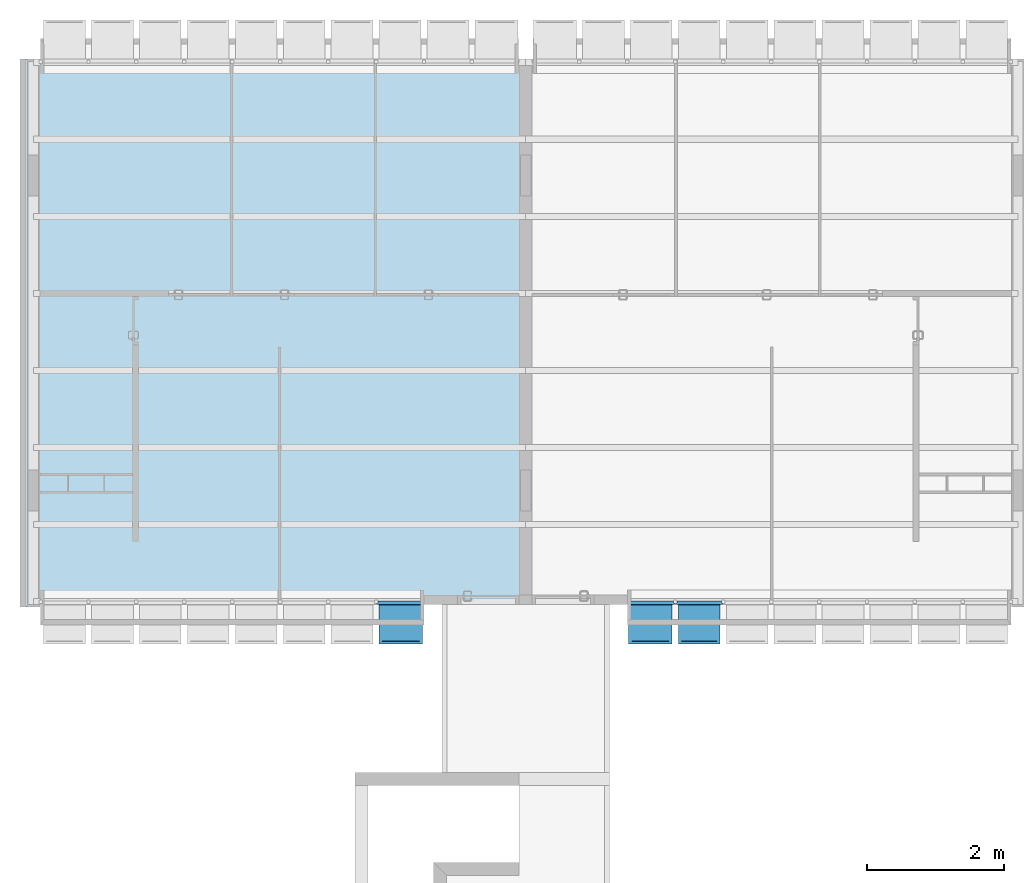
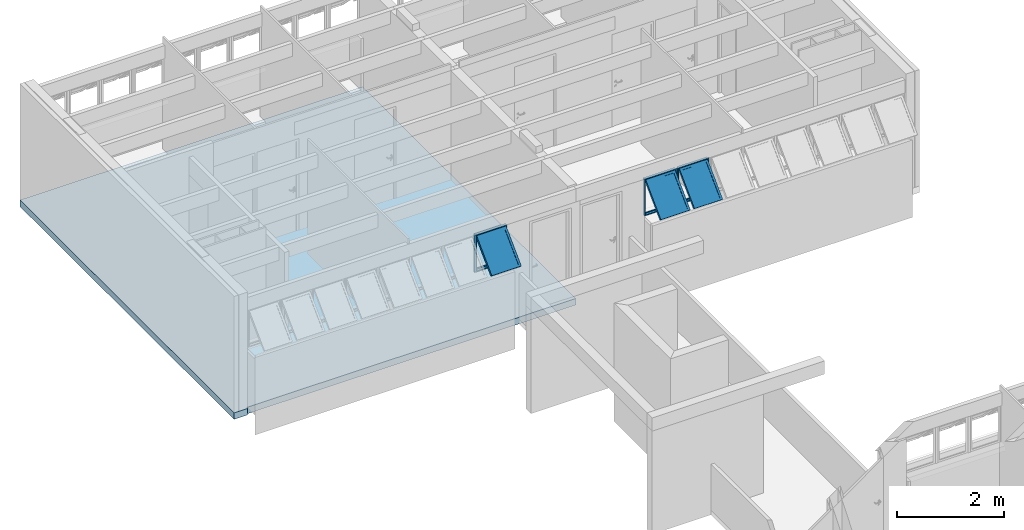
# One storey, part 12 of 40: 3 plates, 1 slab, 2 elements without a shape of their own.
"""IFC4 building model written with IfcOpenShell, lengths in millimetres."""

from ifc_helpers import new_model, entity, si_unit, converted_unit, derived_unit, direction, frame, origin_with_axes, place, context, subcontext, project, spatial, line, indexed_curve, outline, extrude, polygons, source, transform, mapped, material, layer, layer_set, layer_usage, constituent, constituent_set, type_object, element, aggregate, save


model = new_model("IFC4")

# Units and contexts
model_context = context("Model", 3, precision=0.01, world=origin_with_axes(), true_north=direction((0.0, 1.0)))
body_context = subcontext(model_context, "Body", "Model", "MODEL_VIEW")
ifc_project = project(units=[si_unit("LENGTHUNIT", "METRE", prefix="MILLI"), si_unit("AREAUNIT", "SQUARE_METRE"), si_unit("VOLUMEUNIT", "CUBIC_METRE"), converted_unit("PLANEANGLEUNIT", "DEGREE", entity("IfcPlaneAngleMeasure", 0.0174532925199), si_unit("PLANEANGLEUNIT", "RADIAN"), dimensions=[0, 0, 0, 0, 0, 0, 0]), converted_unit("TIMEUNIT", "Year", entity("IfcTimeMeasure", 31556926.0), si_unit("TIMEUNIT", "SECOND"), dimensions=[0, 0, 1, 0, 0, 0, 0]), si_unit("MASSUNIT", "GRAM", prefix="KILO"), si_unit("THERMODYNAMICTEMPERATUREUNIT", "DEGREE_CELSIUS"), si_unit("LUMINOUSINTENSITYUNIT", "LUMEN"), si_unit("ENERGYUNIT", "JOULE", prefix="MEGA"), derived_unit("THERMALCONDUCTANCEUNIT", [(si_unit("POWERUNIT", "WATT"), 1), (si_unit("LENGTHUNIT", "METRE"), -1), (si_unit("THERMODYNAMICTEMPERATUREUNIT", "KELVIN"), -1)]), derived_unit("SPECIFICHEATCAPACITYUNIT", [(si_unit("ENERGYUNIT", "JOULE"), 1), (si_unit("MASSUNIT", "GRAM", prefix="KILO"), -1), (si_unit("THERMODYNAMICTEMPERATUREUNIT", "KELVIN"), -1)]), derived_unit("MASSDENSITYUNIT", [(si_unit("MASSUNIT", "GRAM", prefix="KILO"), 1), (si_unit("VOLUMEUNIT", "CUBIC_METRE"), -1)])], contexts=[model_context])

# Site, building, storey
site_placement = place(None, origin_with_axes())
site = spatial("IfcSite", under=ifc_project, at=site_placement, Name="Local", CompositionType="ELEMENT")
building_placement = place(site_placement, origin_with_axes())
building = spatial("IfcBuilding", under=site, at=building_placement, Name="Construção", CompositionType="ELEMENT")
storey_placement = place(building_placement, frame((0.0, 0.0, 5300.0), z_axis=(0.0, 0.0, 1.0), x_axis=(1.0, 0.0, 0.0)))
storey = spatial("IfcBuildingStorey", under=building, at=storey_placement, Name="Terceiro Pavimento", CompositionType="ELEMENT", Elevation=5300.0)

# Slab
ifc_material_1 = material(Name="Concreto Armado Moldado in Loco - Estrutural")
ifc_layer = layer(ifc_material_1, 150.0, ventilated="UNKNOWN", Name="Concreto Armado Moldado in Loco - Estrutural")
ifc_layer_set = layer_set([ifc_layer], Name="Concreto Armado Moldado in Loco - Estrutural 150")
ifc_layer_usage = layer_usage(ifc_layer_set, "AXIS3", "NEGATIVE", 150.0)
slab_type = type_object("IfcSlabType", Name="Concreto Armado Moldado in Loco - Estrutural 150", PredefinedType="FLOOR")
slab_placement = place(storey_placement, frame((0.0, 25860.0, 0.0), z_axis=(0.0, 0.0, 1.0), x_axis=(1.0, 0.0, 0.0)))
element("IfcSlab", 1, at=slab_placement, inside=storey, type_object=slab_type, material=ifc_layer_usage, Name="APTO11-LAJE-000", PredefinedType="FLOOR", context=body_context, shape_type="SweptSolid", body=[
    extrude(outline(indexed_curve([(0.0, 0.0), (0.0, -7999.99999872), (289.999999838, -8000.00000006), (290.0, -7965.0), (5900.0, -7965.0), (6160.00008404, -7964.99999866), (7385.0, -7964.99999866), (7385.0, 0.0), (299.999978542, 0.0)], segments=[line(1, 2, 3, 4, 5, 6, 7, 8, 9, 1)])), frame((0.0, 0.0, -150.0), z_axis=(0.0, 0.0, 1.0), x_axis=(1.0, 0.0, 0.0)), (0.0, 0.0, 1.0), 150.0),
])

# Window, plates
window_type = type_object("IfcWindowType", Name="Tipo de Parede Cortina", PartitioningType="NOTDEFINED", PredefinedType="NOTDEFINED")
window_1_placement = place(storey_placement, frame((12020.0, 17910.0, 1355.00007107), z_axis=(0.0, 0.0, 1.0), x_axis=(1.0, 0.0, 0.0)))
window_1 = element("IfcWindow", 2, at=window_1_placement, inside=storey, type_object=window_type, Name="APTO12-JANELA-000", PredefinedType="NOTDEFINED")
ifc_material_2 = material(Name="Alumínio")
ifc_constituent_1 = constituent(ifc_material_2, Name="Alumínio")
ifc_material_3 = material(Name="Vidro")
ifc_constituent_2 = constituent(ifc_material_3, Name="Vidro")
ifc_constituent_set_1 = constituent_set(constituents=[ifc_constituent_1, ifc_constituent_2])
plate_type_1 = type_object("IfcPlateType", Name="Painel Principal 690 x 845 x 20", PredefinedType="CURTAIN_PANEL")
shared_shape_1 = source(origin_with_axes(), body_context, "Body", "Tessellation", [
    polygons([(-25.0000036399, 0.0, -40.0), (-25.0000036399, 0.0, -35.0), (-674.999997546, 0.0, -35.0), (-674.999997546, 0.0, -40.0), (-70.0000036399, 45.0, -40.0), (-70.0000036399, 45.0, -35.0), (-629.999997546, 45.0, -35.0), (-629.999997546, 45.0, -40.0)], [[[1, 2, 3, 4]], [[5, 6, 2, 1]], [[2, 6, 7, 3]], [[4, 3, 7, 8]], [[1, 4, 8, 5]], [[8, 7, 6, 5]]], closed=True),
    polygons([(-674.999997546, 0.0, -40.0), (-674.999997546, 0.0, -35.0), (-674.999997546, 844.999891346, -35.0), (-674.999997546, 844.999891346, -40.0), (-629.999997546, 45.0, -40.0), (-629.999997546, 45.0, -35.0), (-629.999997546, 799.999891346, -35.0), (-629.999997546, 799.999891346, -40.0)], [[[1, 2, 3, 4]], [[5, 6, 2, 1]], [[2, 6, 7, 3]], [[4, 3, 7, 8]], [[1, 4, 8, 5]], [[8, 7, 6, 5]]], closed=True),
    polygons([(-25.0000036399, 844.999891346, -40.0), (-25.0000036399, 844.999891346, -35.0), (-70.0000036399, 799.999891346, -35.0), (-70.0000036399, 799.999891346, -40.0), (-674.999997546, 844.999891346, -40.0), (-674.999997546, 844.999891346, -35.0), (-629.999997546, 799.999891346, -35.0), (-629.999997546, 799.999891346, -40.0)], [[[1, 2, 3, 4]], [[5, 6, 2, 1]], [[2, 6, 7, 3]], [[4, 3, 7, 8]], [[1, 4, 8, 5]], [[8, 7, 6, 5]]], closed=True),
    polygons([(-25.0000036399, 0.0, -40.0), (-25.0000036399, 0.0, -35.0), (-70.0000036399, 45.0, -35.0), (-70.0000036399, 45.0, -40.0), (-25.0000036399, 844.999891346, -40.0), (-25.0000036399, 844.999891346, -35.0), (-70.0000036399, 799.999891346, -35.0), (-70.0000036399, 799.999891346, -40.0)], [[[1, 2, 3, 4]], [[5, 6, 2, 1]], [[2, 6, 7, 3]], [[4, 3, 7, 8]], [[1, 4, 8, 5]], [[8, 7, 6, 5]]], closed=True),
    polygons([(-25.0000036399, 0.0, -35.0), (-25.0000036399, 0.0, 15.0), (-674.999997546, 0.0, 15.0), (-674.999997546, 0.0, -35.0), (-45.0000036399, 20.0, -35.0), (-45.0000036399, 20.0, 15.0), (-654.999997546, 20.0, 15.0), (-654.999997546, 20.0, -35.0)], [[[1, 2, 3, 4]], [[5, 6, 2, 1]], [[2, 6, 7, 3]], [[4, 3, 7, 8]], [[1, 4, 8, 5]], [[8, 7, 6, 5]]], closed=True),
    polygons([(-674.999997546, 0.0, -35.0), (-674.999997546, 0.0, 15.0), (-674.999997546, 844.999891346, 15.0), (-674.999997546, 844.999891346, -35.0), (-654.999997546, 20.0, -35.0), (-654.999997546, 20.0, 15.0), (-654.999997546, 824.999891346, 15.0), (-654.999997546, 824.999891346, -35.0)], [[[1, 2, 3, 4]], [[5, 6, 2, 1]], [[2, 6, 7, 3]], [[4, 3, 7, 8]], [[1, 4, 8, 5]], [[8, 7, 6, 5]]], closed=True),
    polygons([(-25.0000036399, 844.999891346, -35.0), (-25.0000036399, 844.999891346, 15.0), (-45.0000036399, 824.999891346, 15.0), (-45.0000036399, 824.999891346, -35.0), (-674.999997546, 844.999891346, -35.0), (-674.999997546, 844.999891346, 15.0), (-654.999997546, 824.999891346, 15.0), (-654.999997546, 824.999891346, -35.0)], [[[1, 2, 3, 4]], [[5, 6, 2, 1]], [[2, 6, 7, 3]], [[4, 3, 7, 8]], [[1, 4, 8, 5]], [[8, 7, 6, 5]]], closed=True),
    polygons([(-25.0000036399, 0.0, -35.0), (-25.0000036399, 0.0, 15.0), (-45.0000036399, 20.0, 15.0), (-45.0000036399, 20.0, -35.0), (-25.0000036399, 844.999891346, -35.0), (-25.0000036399, 844.999891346, 15.0), (-45.0000036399, 824.999891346, 15.0), (-45.0000036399, 824.999891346, -35.0)], [[[1, 2, 3, 4]], [[5, 6, 2, 1]], [[2, 6, 7, 3]], [[4, 3, 7, 8]], [[1, 4, 8, 5]], [[8, 7, 6, 5]]], closed=True),
    polygons([(-694.999995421, 0.0, -10.0), (-694.999995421, 0.0, 10.0), (-694.999995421, 844.999891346, 10.0), (-694.999995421, 844.999891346, -10.0), (-674.999997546, 0.0, -10.0), (-674.999997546, 0.0, 10.0), (-674.999997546, 844.999891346, 10.0), (-674.999997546, 844.999891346, -10.0)], [[[1, 2, 3, 4]], [[5, 6, 2, 1]], [[2, 6, 7, 3]], [[4, 3, 7, 8]], [[1, 4, 8, 5]], [[8, 7, 6, 5]]], closed=True),
    polygons([(-5.00000576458, 844.999891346, -10.0), (-5.00000576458, 844.999891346, 10.0), (-5.00000576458, 0.0, 10.0), (-5.00000576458, 0.0, -10.0), (-25.0000036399, 844.999891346, -10.0), (-25.0000036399, 844.999891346, 10.0), (-25.0000036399, 0.0, 10.0), (-25.0000036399, 0.0, -10.0)], [[[1, 2, 3, 4]], [[5, 6, 2, 1]], [[2, 6, 7, 3]], [[4, 3, 7, 8]], [[1, 4, 8, 5]], [[8, 7, 6, 5]]], closed=True),
    polygons([(-90.0000036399, 252.243475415, 517.045737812), (-90.0000036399, 291.13434838, 555.936610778), (-90.0000036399, 796.715620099, 50.3553390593), (-90.0000036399, 757.824747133, 11.4644660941), (-45.0000036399, 220.423670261, 548.865542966), (-45.0000036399, 259.314543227, 587.756415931), (-45.0000036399, 828.535425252, 18.5355339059), (-45.0000036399, 789.644552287, -20.3553390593)], [[[1, 2, 3, 4]], [[5, 6, 2, 1]], [[2, 6, 7, 3]], [[4, 3, 7, 8]], [[1, 4, 8, 5]], [[8, 7, 6, 5]]], closed=True),
    polygons([(-654.999997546, 220.423670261, 548.865542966), (-654.999997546, 259.314543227, 587.756415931), (-654.999997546, 828.535425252, 18.5355339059), (-654.999997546, 789.644552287, -20.3553390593), (-609.999997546, 252.243475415, 517.045737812), (-609.999997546, 291.13434838, 555.936610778), (-609.999997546, 796.715620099, 50.3553390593), (-609.999997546, 757.824747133, 11.4644660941)], [[[1, 2, 3, 4]], [[5, 6, 2, 1]], [[2, 6, 7, 3]], [[4, 3, 7, 8]], [[1, 4, 8, 5]], [[8, 7, 6, 5]]], closed=True),
    polygons([(-654.999997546, 220.423670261, 548.865542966), (-654.999997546, 259.314543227, 587.756415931), (-609.999997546, 291.13434838, 555.936610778), (-609.999997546, 252.243475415, 517.045737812), (-45.0000036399, 220.423670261, 548.865542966), (-45.0000036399, 259.314543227, 587.756415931), (-90.0000036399, 291.13434838, 555.936610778), (-90.0000036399, 252.243475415, 517.045737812)], [[[1, 2, 3, 4]], [[5, 6, 2, 1]], [[2, 6, 7, 3]], [[4, 3, 7, 8]], [[1, 4, 8, 5]], [[8, 7, 6, 5]]], closed=True),
    polygons([(-45.0000036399, 789.644552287, -20.3553390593), (-45.0000036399, 828.535425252, 18.5355339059), (-90.0000036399, 796.715620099, 50.3553390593), (-90.0000036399, 757.824747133, 11.4644660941), (-654.999997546, 789.644552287, -20.3553390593), (-654.999997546, 828.535425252, 18.5355339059), (-609.999997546, 796.715620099, 50.3553390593), (-609.999997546, 757.824747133, 11.4644660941)], [[[1, 2, 3, 4]], [[5, 6, 2, 1]], [[2, 6, 7, 3]], [[4, 3, 7, 8]], [[1, 4, 8, 5]], [[8, 7, 6, 5]]], closed=True),
    polygons([(-90.0000036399, 272.749572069, 537.551834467), (-90.0000036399, 284.063280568, 548.865542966), (-609.999997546, 284.063280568, 548.865542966), (-609.999997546, 272.749572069, 537.551834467), (-90.0000036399, 778.330843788, 31.9705627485), (-90.0000036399, 789.644552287, 43.2842712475), (-609.999997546, 789.644552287, 43.2842712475), (-609.999997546, 778.330843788, 31.9705627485)], [[[1, 2, 3, 4]], [[5, 6, 2, 1]], [[2, 6, 7, 3]], [[4, 3, 7, 8]], [[1, 4, 8, 5]], [[8, 7, 6, 5]]], closed=True),
])
plate_1_placement = place(window_1_placement, frame((-2100.0, 0.0, 422.499964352), z_axis=(0.0, 0.0, 1.0), x_axis=(1.0, 0.0, 0.0)))
plate_1 = element("IfcPlate", 3, at=plate_1_placement, type_object=plate_type_1, material=ifc_constituent_set_1, Name="APTO12-Painel-Prin-029", PredefinedType="CURTAIN_PANEL", context=body_context, shape_type="MappedRepresentation", body=[
    mapped(shared_shape_1, transform((350.0, 0.0, -422.499964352), x_axis=(1.0, 0.0, 0.0), y_axis=(0.0, 0.0, 1.0), z_axis=(0.0, -1.0, 0.0))),
])
ifc_constituent_3 = constituent(ifc_material_2, Name="Alumínio")
ifc_constituent_4 = constituent(ifc_material_3, Name="Vidro")
ifc_constituent_set_2 = constituent_set(constituents=[ifc_constituent_3, ifc_constituent_4])
plate_type_2 = type_object("IfcPlateType", Name="Painel Principal 695 x 845 x 20", PredefinedType="CURTAIN_PANEL")
shared_shape_2 = source(origin_with_axes(), body_context, "Body", "Tessellation", [
    polygons([(-25.0000062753, 0.0, -40.0), (-25.0000062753, 0.0, -35.0), (-699.999999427, 0.0, -35.0), (-699.999999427, 0.0, -40.0), (-70.0000062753, 45.0, -40.0), (-70.0000062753, 45.0, -35.0), (-654.999999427, 45.0, -35.0), (-654.999999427, 45.0, -40.0)], [[[1, 2, 3, 4]], [[5, 6, 2, 1]], [[2, 6, 7, 3]], [[4, 3, 7, 8]], [[1, 4, 8, 5]], [[8, 7, 6, 5]]], closed=True),
    polygons([(-699.999999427, 0.0, -40.0), (-699.999999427, 0.0, -35.0), (-699.999999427, 844.999980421, -35.0), (-699.999999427, 844.999980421, -40.0), (-654.999999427, 45.0, -40.0), (-654.999999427, 45.0, -35.0), (-654.999999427, 799.999980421, -35.0), (-654.999999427, 799.999980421, -40.0)], [[[1, 2, 3, 4]], [[5, 6, 2, 1]], [[2, 6, 7, 3]], [[4, 3, 7, 8]], [[1, 4, 8, 5]], [[8, 7, 6, 5]]], closed=True),
    polygons([(-25.0000062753, 844.999980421, -40.0), (-25.0000062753, 844.999980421, -35.0), (-70.0000062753, 799.999980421, -35.0), (-70.0000062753, 799.999980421, -40.0), (-699.999999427, 844.999980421, -40.0), (-699.999999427, 844.999980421, -35.0), (-654.999999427, 799.999980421, -35.0), (-654.999999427, 799.999980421, -40.0)], [[[1, 2, 3, 4]], [[5, 6, 2, 1]], [[2, 6, 7, 3]], [[4, 3, 7, 8]], [[1, 4, 8, 5]], [[8, 7, 6, 5]]], closed=True),
    polygons([(-25.0000062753, 0.0, -40.0), (-25.0000062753, 0.0, -35.0), (-70.0000062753, 45.0, -35.0), (-70.0000062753, 45.0, -40.0), (-25.0000062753, 844.999980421, -40.0), (-25.0000062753, 844.999980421, -35.0), (-70.0000062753, 799.999980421, -35.0), (-70.0000062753, 799.999980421, -40.0)], [[[1, 2, 3, 4]], [[5, 6, 2, 1]], [[2, 6, 7, 3]], [[4, 3, 7, 8]], [[1, 4, 8, 5]], [[8, 7, 6, 5]]], closed=True),
    polygons([(-25.0000062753, 0.0, -35.0), (-25.0000062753, 0.0, 15.0), (-699.999999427, 0.0, 15.0), (-699.999999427, 0.0, -35.0), (-45.0000062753, 20.0, -35.0), (-45.0000062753, 20.0, 15.0), (-679.999999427, 20.0, 15.0), (-679.999999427, 20.0, -35.0)], [[[1, 2, 3, 4]], [[5, 6, 2, 1]], [[2, 6, 7, 3]], [[4, 3, 7, 8]], [[1, 4, 8, 5]], [[8, 7, 6, 5]]], closed=True),
    polygons([(-699.999999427, 0.0, -35.0), (-699.999999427, 0.0, 15.0), (-699.999999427, 844.999980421, 15.0), (-699.999999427, 844.999980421, -35.0), (-679.999999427, 20.0, -35.0), (-679.999999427, 20.0, 15.0), (-679.999999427, 824.999980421, 15.0), (-679.999999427, 824.999980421, -35.0)], [[[1, 2, 3, 4]], [[5, 6, 2, 1]], [[2, 6, 7, 3]], [[4, 3, 7, 8]], [[1, 4, 8, 5]], [[8, 7, 6, 5]]], closed=True),
    polygons([(-25.0000062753, 844.999980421, -35.0), (-25.0000062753, 844.999980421, 15.0), (-45.0000062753, 824.999980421, 15.0), (-45.0000062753, 824.999980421, -35.0), (-699.999999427, 844.999980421, -35.0), (-699.999999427, 844.999980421, 15.0), (-679.999999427, 824.999980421, 15.0), (-679.999999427, 824.999980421, -35.0)], [[[1, 2, 3, 4]], [[5, 6, 2, 1]], [[2, 6, 7, 3]], [[4, 3, 7, 8]], [[1, 4, 8, 5]], [[8, 7, 6, 5]]], closed=True),
    polygons([(-25.0000062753, 0.0, -35.0), (-25.0000062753, 0.0, 15.0), (-45.0000062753, 20.0, 15.0), (-45.0000062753, 20.0, -35.0), (-25.0000062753, 844.999980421, -35.0), (-25.0000062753, 844.999980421, 15.0), (-45.0000062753, 824.999980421, 15.0), (-45.0000062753, 824.999980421, -35.0)], [[[1, 2, 3, 4]], [[5, 6, 2, 1]], [[2, 6, 7, 3]], [[4, 3, 7, 8]], [[1, 4, 8, 5]], [[8, 7, 6, 5]]], closed=True),
    polygons([(-5.00000629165, 844.999980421, -10.0), (-5.00000629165, 844.999980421, 10.0), (-5.00000629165, 0.0, 10.0), (-5.00000629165, 0.0, -10.0), (-25.0000062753, 844.999980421, -10.0), (-25.0000062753, 844.999980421, 10.0), (-25.0000062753, 0.0, 10.0), (-25.0000062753, 0.0, -10.0)], [[[1, 2, 3, 4]], [[5, 6, 2, 1]], [[2, 6, 7, 3]], [[4, 3, 7, 8]], [[1, 4, 8, 5]], [[8, 7, 6, 5]]], closed=True),
    polygons([(-90.0000062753, 252.243501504, 517.045800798), (-90.0000062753, 291.134374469, 555.936673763), (-90.0000062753, 796.715709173, 50.3553390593), (-90.0000062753, 757.824836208, 11.4644660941), (-45.0000062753, 220.423696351, 548.865605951), (-45.0000062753, 259.314569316, 587.756478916), (-45.0000062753, 828.535514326, 18.5355339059), (-45.0000062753, 789.644641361, -20.3553390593)], [[[1, 2, 3, 4]], [[5, 6, 2, 1]], [[2, 6, 7, 3]], [[4, 3, 7, 8]], [[1, 4, 8, 5]], [[8, 7, 6, 5]]], closed=True),
    polygons([(-679.999999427, 220.423696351, 548.865605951), (-679.999999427, 259.314569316, 587.756478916), (-679.999999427, 828.535514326, 18.5355339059), (-679.999999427, 789.644641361, -20.3553390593), (-634.999999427, 252.243501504, 517.045800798), (-634.999999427, 291.134374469, 555.936673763), (-634.999999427, 796.715709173, 50.3553390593), (-634.999999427, 757.824836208, 11.4644660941)], [[[1, 2, 3, 4]], [[5, 6, 2, 1]], [[2, 6, 7, 3]], [[4, 3, 7, 8]], [[1, 4, 8, 5]], [[8, 7, 6, 5]]], closed=True),
    polygons([(-679.999999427, 220.423696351, 548.865605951), (-679.999999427, 259.314569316, 587.756478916), (-634.999999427, 291.134374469, 555.936673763), (-634.999999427, 252.243501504, 517.045800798), (-45.0000062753, 220.423696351, 548.865605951), (-45.0000062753, 259.314569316, 587.756478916), (-90.0000062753, 291.134374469, 555.936673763), (-90.0000062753, 252.243501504, 517.045800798)], [[[1, 2, 3, 4]], [[5, 6, 2, 1]], [[2, 6, 7, 3]], [[4, 3, 7, 8]], [[1, 4, 8, 5]], [[8, 7, 6, 5]]], closed=True),
    polygons([(-45.0000062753, 789.644641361, -20.3553390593), (-45.0000062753, 828.535514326, 18.5355339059), (-90.0000062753, 796.715709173, 50.3553390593), (-90.0000062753, 757.824836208, 11.4644660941), (-679.999999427, 789.644641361, -20.3553390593), (-679.999999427, 828.535514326, 18.5355339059), (-634.999999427, 796.715709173, 50.3553390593), (-634.999999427, 757.824836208, 11.4644660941)], [[[1, 2, 3, 4]], [[5, 6, 2, 1]], [[2, 6, 7, 3]], [[4, 3, 7, 8]], [[1, 4, 8, 5]], [[8, 7, 6, 5]]], closed=True),
    polygons([(-90.0000062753, 272.749598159, 537.551897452), (-90.0000062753, 284.063306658, 548.865605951), (-634.999999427, 284.063306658, 548.865605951), (-634.999999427, 272.749598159, 537.551897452), (-90.0000062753, 778.330932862, 31.9705627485), (-90.0000062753, 789.644641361, 43.2842712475), (-634.999999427, 789.644641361, 43.2842712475), (-634.999999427, 778.330932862, 31.9705627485)], [[[1, 2, 3, 4]], [[5, 6, 2, 1]], [[2, 6, 7, 3]], [[4, 3, 7, 8]], [[1, 4, 8, 5]], [[8, 7, 6, 5]]], closed=True),
])
plate_2_placement = place(window_1_placement, frame((-2800.0, 0.0, 422.499986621), z_axis=(0.0, 0.0, 1.0), x_axis=(1.0, 0.0, 0.0)))
plate_2 = element("IfcPlate", 4, at=plate_2_placement, type_object=plate_type_2, material=ifc_constituent_set_2, Name="APTO12-Painel-Prin-020", PredefinedType="CURTAIN_PANEL", context=body_context, shape_type="MappedRepresentation", body=[
    mapped(shared_shape_2, transform((350.0, 0.0, -422.499986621), x_axis=(1.0, 0.0, 0.0), y_axis=(0.0, 0.0, 1.0), z_axis=(0.0, -1.0, 0.0))),
])
aggregate(window_1, [plate_1, plate_2])

# Window, plate
window_2_placement = place(storey_placement, frame((2750.0, 17910.0, 1355.00007107), z_axis=(0.0, 0.0, 1.0), x_axis=(1.0, 0.0, 0.0)))
window_2 = element("IfcWindow", 5, at=window_2_placement, inside=storey, type_object=window_type, Name="APTO11-JANELA-000", PredefinedType="NOTDEFINED")
ifc_constituent_5 = constituent(ifc_material_2, Name="Alumínio")
ifc_constituent_6 = constituent(ifc_material_3, Name="Vidro")
ifc_constituent_set_3 = constituent_set(constituents=[ifc_constituent_5, ifc_constituent_6])
shared_shape_3 = source(origin_with_axes(), body_context, "Body", "Tessellation", [
    polygons([(25.0000062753, 0.0, -40.0), (699.999999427, 0.0, -40.0), (699.999999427, 0.0, -35.0), (25.0000062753, 0.0, -35.0), (70.0000062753, 45.0, -40.0), (654.999999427, 45.0, -40.0), (654.999999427, 45.0, -35.0), (70.0000062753, 45.0, -35.0)], [[[1, 2, 3, 4]], [[1, 5, 6, 2]], [[2, 6, 7, 3]], [[4, 3, 7, 8]], [[5, 1, 4, 8]], [[6, 5, 8, 7]]], closed=True),
    polygons([(699.999999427, 0.0, -40.0), (699.999999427, 844.999980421, -40.0), (699.999999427, 844.999980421, -35.0), (699.999999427, 0.0, -35.0), (654.999999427, 45.0, -40.0), (654.999999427, 799.999980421, -40.0), (654.999999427, 799.999980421, -35.0), (654.999999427, 45.0, -35.0)], [[[1, 2, 3, 4]], [[1, 5, 6, 2]], [[2, 6, 7, 3]], [[4, 3, 7, 8]], [[5, 1, 4, 8]], [[6, 5, 8, 7]]], closed=True),
    polygons([(25.0000062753, 844.999980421, -40.0), (70.0000062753, 799.999980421, -40.0), (70.0000062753, 799.999980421, -35.0), (25.0000062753, 844.999980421, -35.0), (699.999999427, 844.999980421, -40.0), (654.999999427, 799.999980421, -40.0), (654.999999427, 799.999980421, -35.0), (699.999999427, 844.999980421, -35.0)], [[[1, 2, 3, 4]], [[1, 5, 6, 2]], [[2, 6, 7, 3]], [[4, 3, 7, 8]], [[5, 1, 4, 8]], [[6, 5, 8, 7]]], closed=True),
    polygons([(25.0000062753, 0.0, -40.0), (70.0000062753, 45.0, -40.0), (70.0000062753, 45.0, -35.0), (25.0000062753, 0.0, -35.0), (25.0000062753, 844.999980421, -40.0), (70.0000062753, 799.999980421, -40.0), (70.0000062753, 799.999980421, -35.0), (25.0000062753, 844.999980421, -35.0)], [[[1, 2, 3, 4]], [[1, 5, 6, 2]], [[2, 6, 7, 3]], [[4, 3, 7, 8]], [[5, 1, 4, 8]], [[6, 5, 8, 7]]], closed=True),
    polygons([(25.0000062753, 0.0, -35.0), (699.999999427, 0.0, -35.0), (699.999999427, 0.0, 15.0), (25.0000062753, 0.0, 15.0), (45.0000062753, 20.0, -35.0), (679.999999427, 20.0, -35.0), (679.999999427, 20.0, 15.0), (45.0000062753, 20.0, 15.0)], [[[1, 2, 3, 4]], [[1, 5, 6, 2]], [[2, 6, 7, 3]], [[4, 3, 7, 8]], [[5, 1, 4, 8]], [[6, 5, 8, 7]]], closed=True),
    polygons([(699.999999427, 0.0, -35.0), (699.999999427, 844.999980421, -35.0), (699.999999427, 844.999980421, 15.0), (699.999999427, 0.0, 15.0), (679.999999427, 20.0, -35.0), (679.999999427, 824.999980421, -35.0), (679.999999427, 824.999980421, 15.0), (679.999999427, 20.0, 15.0)], [[[1, 2, 3, 4]], [[1, 5, 6, 2]], [[2, 6, 7, 3]], [[4, 3, 7, 8]], [[5, 1, 4, 8]], [[6, 5, 8, 7]]], closed=True),
    polygons([(25.0000062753, 844.999980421, -35.0), (45.0000062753, 824.999980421, -35.0), (45.0000062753, 824.999980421, 15.0), (25.0000062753, 844.999980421, 15.0), (699.999999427, 844.999980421, -35.0), (679.999999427, 824.999980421, -35.0), (679.999999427, 824.999980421, 15.0), (699.999999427, 844.999980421, 15.0)], [[[1, 2, 3, 4]], [[1, 5, 6, 2]], [[2, 6, 7, 3]], [[4, 3, 7, 8]], [[5, 1, 4, 8]], [[6, 5, 8, 7]]], closed=True),
    polygons([(25.0000062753, 0.0, -35.0), (45.0000062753, 20.0, -35.0), (45.0000062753, 20.0, 15.0), (25.0000062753, 0.0, 15.0), (25.0000062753, 844.999980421, -35.0), (45.0000062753, 824.999980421, -35.0), (45.0000062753, 824.999980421, 15.0), (25.0000062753, 844.999980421, 15.0)], [[[1, 2, 3, 4]], [[1, 5, 6, 2]], [[2, 6, 7, 3]], [[4, 3, 7, 8]], [[5, 1, 4, 8]], [[6, 5, 8, 7]]], closed=True),
    polygons([(5.00000629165, 844.999980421, -10.0), (5.00000629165, 0.0, -10.0), (5.00000629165, 0.0, 10.0), (5.00000629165, 844.999980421, 10.0), (25.0000062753, 844.999980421, -10.0), (25.0000062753, 0.0, -10.0), (25.0000062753, 0.0, 10.0), (25.0000062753, 844.999980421, 10.0)], [[[1, 2, 3, 4]], [[1, 5, 6, 2]], [[2, 6, 7, 3]], [[4, 3, 7, 8]], [[5, 1, 4, 8]], [[6, 5, 8, 7]]], closed=True),
    polygons([(90.0000062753, 252.243501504, 517.045800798), (90.0000062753, 757.824836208, 11.4644660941), (90.0000062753, 796.715709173, 50.3553390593), (90.0000062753, 291.134374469, 555.936673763), (45.0000062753, 220.423696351, 548.865605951), (45.0000062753, 789.644641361, -20.3553390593), (45.0000062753, 828.535514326, 18.5355339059), (45.0000062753, 259.314569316, 587.756478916)], [[[1, 2, 3, 4]], [[1, 5, 6, 2]], [[2, 6, 7, 3]], [[4, 3, 7, 8]], [[5, 1, 4, 8]], [[6, 5, 8, 7]]], closed=True),
    polygons([(679.999999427, 220.423696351, 548.865605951), (679.999999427, 789.644641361, -20.3553390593), (679.999999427, 828.535514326, 18.5355339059), (679.999999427, 259.314569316, 587.756478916), (634.999999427, 252.243501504, 517.045800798), (634.999999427, 757.824836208, 11.4644660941), (634.999999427, 796.715709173, 50.3553390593), (634.999999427, 291.134374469, 555.936673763)], [[[1, 2, 3, 4]], [[1, 5, 6, 2]], [[2, 6, 7, 3]], [[4, 3, 7, 8]], [[5, 1, 4, 8]], [[6, 5, 8, 7]]], closed=True),
    polygons([(679.999999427, 220.423696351, 548.865605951), (634.999999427, 252.243501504, 517.045800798), (634.999999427, 291.134374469, 555.936673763), (679.999999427, 259.314569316, 587.756478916), (45.0000062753, 220.423696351, 548.865605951), (90.0000062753, 252.243501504, 517.045800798), (90.0000062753, 291.134374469, 555.936673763), (45.0000062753, 259.314569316, 587.756478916)], [[[1, 2, 3, 4]], [[1, 5, 6, 2]], [[2, 6, 7, 3]], [[4, 3, 7, 8]], [[5, 1, 4, 8]], [[6, 5, 8, 7]]], closed=True),
    polygons([(45.0000062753, 789.644641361, -20.3553390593), (90.0000062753, 757.824836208, 11.4644660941), (90.0000062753, 796.715709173, 50.3553390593), (45.0000062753, 828.535514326, 18.5355339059), (679.999999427, 789.644641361, -20.3553390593), (634.999999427, 757.824836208, 11.4644660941), (634.999999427, 796.715709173, 50.3553390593), (679.999999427, 828.535514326, 18.5355339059)], [[[1, 2, 3, 4]], [[1, 5, 6, 2]], [[2, 6, 7, 3]], [[4, 3, 7, 8]], [[5, 1, 4, 8]], [[6, 5, 8, 7]]], closed=True),
    polygons([(90.0000062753, 272.749598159, 537.551897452), (634.999999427, 272.749598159, 537.551897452), (634.999999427, 284.063306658, 548.865605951), (90.0000062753, 284.063306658, 548.865605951), (90.0000062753, 778.330932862, 31.9705627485), (634.999999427, 778.330932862, 31.9705627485), (634.999999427, 789.644641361, 43.2842712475), (90.0000062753, 789.644641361, 43.2842712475)], [[[1, 2, 3, 4]], [[1, 5, 6, 2]], [[2, 6, 7, 3]], [[4, 3, 7, 8]], [[5, 1, 4, 8]], [[6, 5, 8, 7]]], closed=True),
])
plate_3_placement = place(window_2_placement, frame((2800.0, 0.0, 422.499986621), z_axis=(0.0, 0.0, 1.0), x_axis=(-1.0, 0.0, 0.0)))
plate_3 = element("IfcPlate", 6, at=plate_3_placement, type_object=plate_type_2, material=ifc_constituent_set_3, Name="APTO11-Painel-Prin-020", PredefinedType="CURTAIN_PANEL", context=body_context, shape_type="MappedRepresentation", body=[
    mapped(shared_shape_3, transform((350.0, 0.0, -422.499986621), x_axis=(-1.0, 0.0, 0.0), y_axis=(0.0, 0.0, 1.0), z_axis=(0.0, 1.0, 0.0))),
])
aggregate(window_2, [plate_3])

save(model, "model.ifc")
